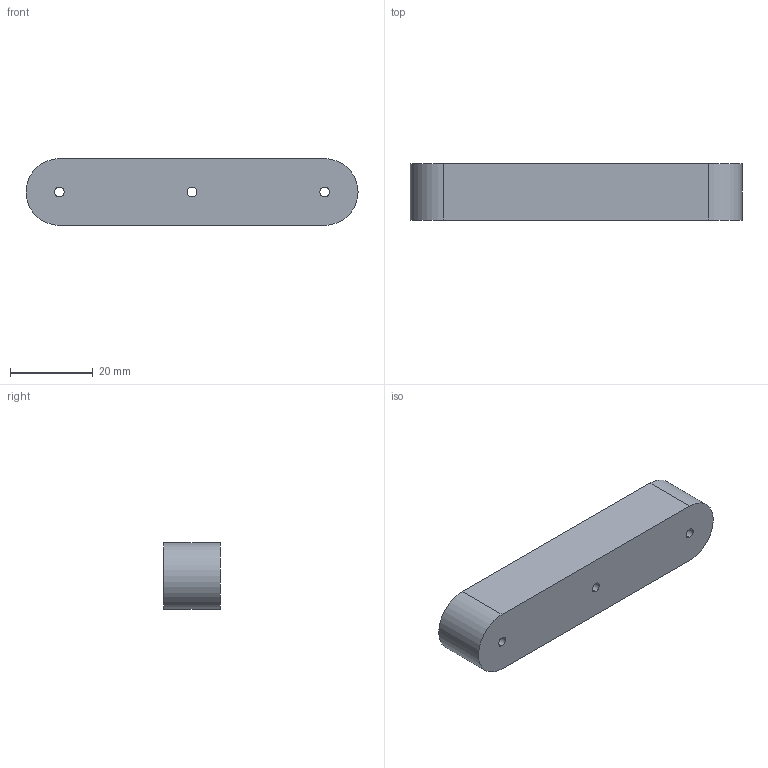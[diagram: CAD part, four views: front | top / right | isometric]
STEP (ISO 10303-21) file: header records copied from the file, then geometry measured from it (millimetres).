
FILE_DESCRIPTION (( 'STEP AP214' ), '1' );
FILE_NAME ('4030_POCKET_CLOSED_DBL_CLIP_SER.STEP', '2025-06-17T15:11:24', ( '' ), ( '' ), 'SwSTEP 2.0', 'SolidWorks 2025', '' );
FILE_SCHEMA (( 'AUTOMOTIVE_DESIGN' ));
Length unit declared in the file: inch
Products named in the file (1): 4030_POCKET_CLOSED_DBL_CLIP_SER
Bounding box: 80.09 x 13.54 x 16.08 mm (x, y, z)
Volume: 7860.1 mm3; surface area: 6699.5 mm2
Topology: 1 solids, 1 shells, 17 faces, 42 edges, 28 vertices
Faces by surface type: cylinder 10, plane 7
Entity records: 555 total; most frequent: DIRECTION 98, CARTESIAN_POINT 88, ORIENTED_EDGE 84, EDGE_CURVE 42, AXIS2_PLACEMENT_3D 38, VERTEX_POINT 28, EDGE_LOOP 24, LINE 22
